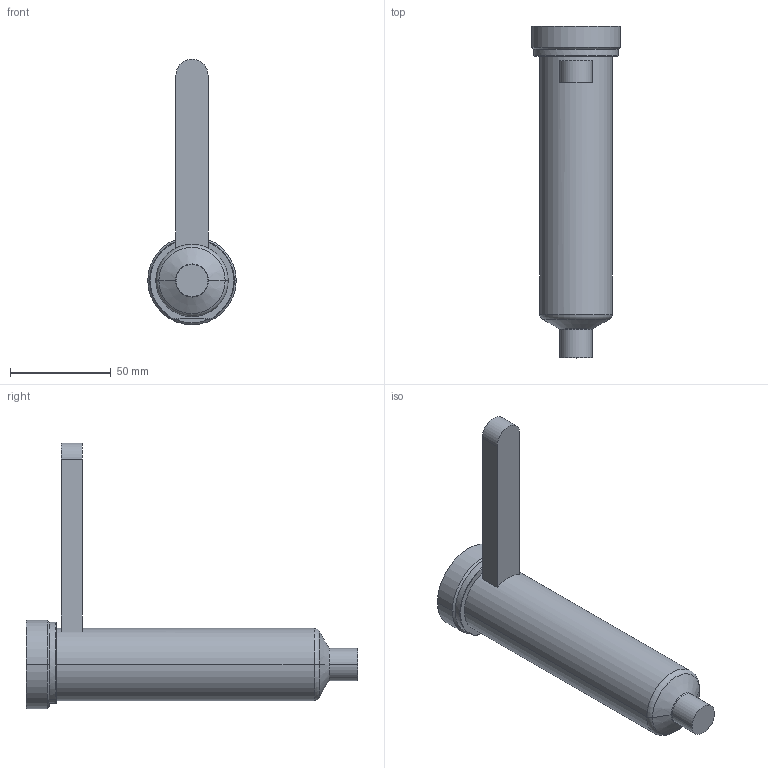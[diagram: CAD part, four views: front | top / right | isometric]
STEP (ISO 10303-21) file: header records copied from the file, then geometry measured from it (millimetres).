
FILE_DESCRIPTION((''),'2;1');
FILE_NAME('EO12_PG-FBE_STD_140_COT','2024-02-19T12:02:49',('sundharh'),(''),'CREO PARAMETRIC BY PTC INC, 2023154','CREO PARAMETRIC BY PTC INC, 2023154','');
FILE_SCHEMA(('CONFIG_CONTROL_DESIGN'));
Length unit declared in the file: millimetre
Products named in the file (1): EO12_PG-FBE_STD_140_COT
Bounding box: 44 x 165 x 132 mm (x, y, z)
Volume: 175759.9 mm3; surface area: 25299.7 mm2
Topology: 1 solids, 1 shells, 31 faces, 67 edges, 40 vertices
Faces by surface type: cylinder 11, plane 9, torus 7, cone 4
Entity records: 951 total; most frequent: CARTESIAN_POINT 218, DIRECTION 159, ORIENTED_EDGE 134, AXIS2_PLACEMENT_3D 67, EDGE_CURVE 67, VERTEX_POINT 40, CIRCLE 36, EDGE_LOOP 33
